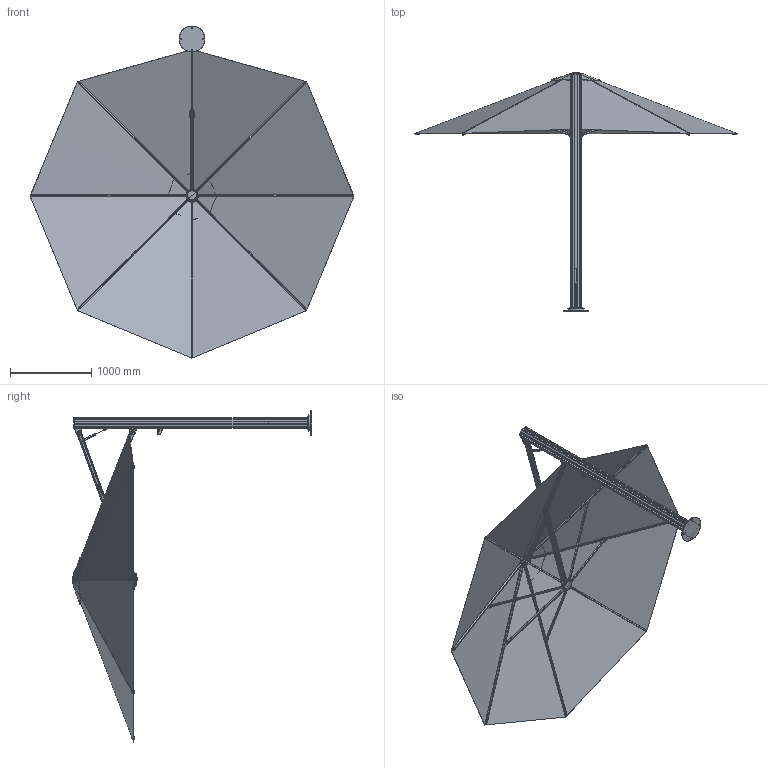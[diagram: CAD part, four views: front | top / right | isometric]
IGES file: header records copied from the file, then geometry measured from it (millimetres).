
Start section: SolidWorks IGES file using analytic representation for surfaces
Global section: file name: S:\RESEARCH and DEVELOPMENT\UnitySerenity Simple CAD Models\1. Export CAD\IGES Files\Unity 4M Octagonal Uno.IGS; native system: SolidWorks 2017; preprocessor: SolidWorks 2017; author: Peter; date: 200619.114835; units: millimetre
Bounding box: 3994.32 x 2950.74 x 4095.92 mm (x, y, z)
Surface area: 30129410.3 mm2 (no closed solid volume)
Topology: 0 solids, 0 shells, 2079 faces, 26511 edges, 26474 vertices
Faces by surface type: bspline 1074, revolution 1005
